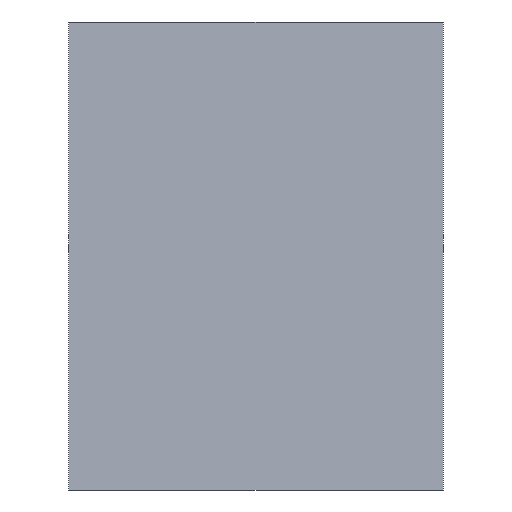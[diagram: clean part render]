
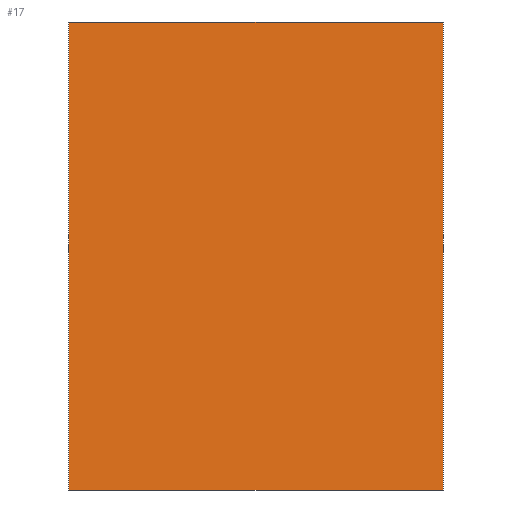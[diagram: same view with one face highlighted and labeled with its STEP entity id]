
A CAD part, front view. The second image highlights one B-rep face of the part: STEP entity #17.
In plain terms, the highlighted planar face has unit normal (0, -0.995, 0.104).
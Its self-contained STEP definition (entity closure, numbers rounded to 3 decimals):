
#17 = ADVANCED_FACE('',(#18),#32,.F.);
#18 = FACE_BOUND('',#19,.T.);
#19 = EDGE_LOOP('',(#20,#55,#83,#111));
#20 = ORIENTED_EDGE('',*,*,#21,.F.);
#21 = EDGE_CURVE('',#22,#24,#26,.T.);
#22 = VERTEX_POINT('',#23);
#23 = CARTESIAN_POINT('',(1.,7.665,-88.));
#24 = VERTEX_POINT('',#25);
#25 = CARTESIAN_POINT('',(1.,10.293,-63.));
#26 = SURFACE_CURVE('',#27,(#31,#43),.PCURVE_S1.);
#27 = LINE('',#28,#29);
#28 = CARTESIAN_POINT('',(1.,2.62,-136.));
#29 = VECTOR('',#30,1.);
#30 = DIRECTION('',(-0.,0.105,0.995));
#31 = PCURVE('',#32,#37);
#32 = PLANE('',#33);
#33 = AXIS2_PLACEMENT_3D('',#34,#35,#36);
#34 = CARTESIAN_POINT('',(1.,2.62,-136.));
#35 = DIRECTION('',(0.,0.995,-0.105));
#36 = DIRECTION('',(0.,-0.105,-0.995));
#37 = DEFINITIONAL_REPRESENTATION('',(#38),#42);
#38 = LINE('',#39,#40);
#39 = CARTESIAN_POINT('',(-0.,0.));
#40 = VECTOR('',#41,1.);
#41 = DIRECTION('',(-1.,0.));
#42 = ( GEOMETRIC_REPRESENTATION_CONTEXT(2) 
PARAMETRIC_REPRESENTATION_CONTEXT() REPRESENTATION_CONTEXT('2D SPACE',''
  ) );
#43 = PCURVE('',#44,#49);
#44 = PLANE('',#45);
#45 = AXIS2_PLACEMENT_3D('',#46,#47,#48);
#46 = CARTESIAN_POINT('',(1.,8.457,-99.5));
#47 = DIRECTION('',(1.,-0.,-0.));
#48 = DIRECTION('',(0.,0.,-1.));
#49 = DEFINITIONAL_REPRESENTATION('',(#50),#54);
#50 = LINE('',#51,#52);
#51 = CARTESIAN_POINT('',(36.5,-5.836));
#52 = VECTOR('',#53,1.);
#53 = DIRECTION('',(-0.995,0.105));
#54 = ( GEOMETRIC_REPRESENTATION_CONTEXT(2) 
PARAMETRIC_REPRESENTATION_CONTEXT() REPRESENTATION_CONTEXT('2D SPACE',''
  ) );
#55 = ORIENTED_EDGE('',*,*,#56,.F.);
#56 = EDGE_CURVE('',#57,#22,#59,.T.);
#57 = VERTEX_POINT('',#58);
#58 = CARTESIAN_POINT('',(21.,7.665,-88.));
#59 = SURFACE_CURVE('',#60,(#64,#71),.PCURVE_S1.);
#60 = LINE('',#61,#62);
#61 = CARTESIAN_POINT('',(-199.5,7.665,-88.));
#62 = VECTOR('',#63,1.);
#63 = DIRECTION('',(-1.,-0.,0.));
#64 = PCURVE('',#32,#65);
#65 = DEFINITIONAL_REPRESENTATION('',(#66),#70);
#66 = LINE('',#67,#68);
#67 = CARTESIAN_POINT('',(-48.264,200.5));
#68 = VECTOR('',#69,1.);
#69 = DIRECTION('',(-0.,1.));
#70 = ( GEOMETRIC_REPRESENTATION_CONTEXT(2) 
PARAMETRIC_REPRESENTATION_CONTEXT() REPRESENTATION_CONTEXT('2D SPACE',''
  ) );
#71 = PCURVE('',#72,#77);
#72 = PLANE('',#73);
#73 = AXIS2_PLACEMENT_3D('',#74,#75,#76);
#74 = CARTESIAN_POINT('',(-400.,400.,-88.));
#75 = DIRECTION('',(0.,0.,1.));
#76 = DIRECTION('',(-1.,0.,0.));
#77 = DEFINITIONAL_REPRESENTATION('',(#78),#82);
#78 = LINE('',#79,#80);
#79 = CARTESIAN_POINT('',(-200.5,392.335));
#80 = VECTOR('',#81,1.);
#81 = DIRECTION('',(1.,-0.));
#82 = ( GEOMETRIC_REPRESENTATION_CONTEXT(2) 
PARAMETRIC_REPRESENTATION_CONTEXT() REPRESENTATION_CONTEXT('2D SPACE',''
  ) );
#83 = ORIENTED_EDGE('',*,*,#84,.T.);
#84 = EDGE_CURVE('',#57,#85,#87,.T.);
#85 = VERTEX_POINT('',#86);
#86 = CARTESIAN_POINT('',(21.,10.293,-63.));
#87 = SURFACE_CURVE('',#88,(#92,#99),.PCURVE_S1.);
#88 = LINE('',#89,#90);
#89 = CARTESIAN_POINT('',(21.,2.62,-136.));
#90 = VECTOR('',#91,1.);
#91 = DIRECTION('',(-0.,0.105,0.995));
#92 = PCURVE('',#32,#93);
#93 = DEFINITIONAL_REPRESENTATION('',(#94),#98);
#94 = LINE('',#95,#96);
#95 = CARTESIAN_POINT('',(-0.,-20.));
#96 = VECTOR('',#97,1.);
#97 = DIRECTION('',(-1.,0.));
#98 = ( GEOMETRIC_REPRESENTATION_CONTEXT(2) 
PARAMETRIC_REPRESENTATION_CONTEXT() REPRESENTATION_CONTEXT('2D SPACE',''
  ) );
#99 = PCURVE('',#100,#105);
#100 = PLANE('',#101);
#101 = AXIS2_PLACEMENT_3D('',#102,#103,#104);
#102 = CARTESIAN_POINT('',(21.,8.457,-99.5));
#103 = DIRECTION('',(1.,-0.,-0.));
#104 = DIRECTION('',(0.,0.,-1.));
#105 = DEFINITIONAL_REPRESENTATION('',(#106),#110);
#106 = LINE('',#107,#108);
#107 = CARTESIAN_POINT('',(36.5,-5.836));
#108 = VECTOR('',#109,1.);
#109 = DIRECTION('',(-0.995,0.105));
#110 = ( GEOMETRIC_REPRESENTATION_CONTEXT(2) 
PARAMETRIC_REPRESENTATION_CONTEXT() REPRESENTATION_CONTEXT('2D SPACE',''
  ) );
#111 = ORIENTED_EDGE('',*,*,#112,.F.);
#112 = EDGE_CURVE('',#24,#85,#113,.T.);
#113 = SURFACE_CURVE('',#114,(#118,#125),.PCURVE_S1.);
#114 = LINE('',#115,#116);
#115 = CARTESIAN_POINT('',(1.,10.293,-63.));
#116 = VECTOR('',#117,1.);
#117 = DIRECTION('',(1.,-0.,-0.));
#118 = PCURVE('',#32,#119);
#119 = DEFINITIONAL_REPRESENTATION('',(#120),#124);
#120 = LINE('',#121,#122);
#121 = CARTESIAN_POINT('',(-73.402,0.));
#122 = VECTOR('',#123,1.);
#123 = DIRECTION('',(-0.,-1.));
#124 = ( GEOMETRIC_REPRESENTATION_CONTEXT(2) 
PARAMETRIC_REPRESENTATION_CONTEXT() REPRESENTATION_CONTEXT('2D SPACE',''
  ) );
#125 = PCURVE('',#126,#131);
#126 = PLANE('',#127);
#127 = AXIS2_PLACEMENT_3D('',#128,#129,#130);
#128 = CARTESIAN_POINT('',(1.,10.293,-63.));
#129 = DIRECTION('',(-0.,-0.,-1.));
#130 = DIRECTION('',(0.,-1.,0.));
#131 = DEFINITIONAL_REPRESENTATION('',(#132),#136);
#132 = LINE('',#133,#134);
#133 = CARTESIAN_POINT('',(-0.,0.));
#134 = VECTOR('',#135,1.);
#135 = DIRECTION('',(-0.,-1.));
#136 = ( GEOMETRIC_REPRESENTATION_CONTEXT(2) 
PARAMETRIC_REPRESENTATION_CONTEXT() REPRESENTATION_CONTEXT('2D SPACE',''
  ) );
